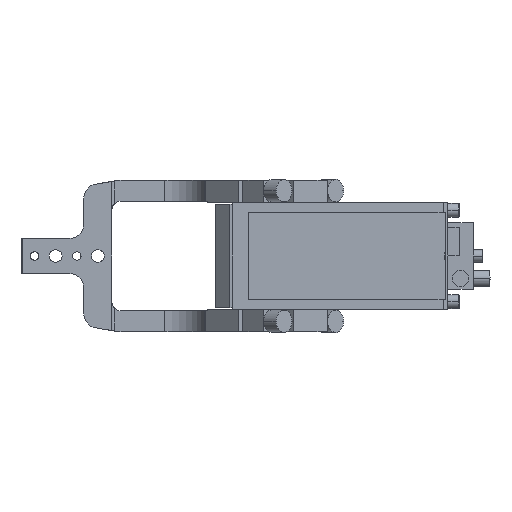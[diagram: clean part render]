
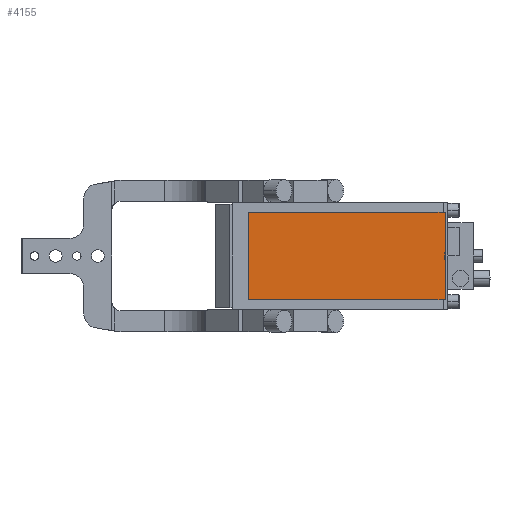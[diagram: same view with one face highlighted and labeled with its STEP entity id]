
A CAD part, left-side view. The second image highlights one B-rep face of the part: STEP entity #4155.
In plain terms, the highlighted planar face has unit normal (-1, 0, 0).
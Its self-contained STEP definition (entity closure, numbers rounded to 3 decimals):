
#321 = ORIENTED_EDGE ( 'NONE', *, *, #10502, .T. ) ;
#347 = VECTOR ( 'NONE', #10851, 1000. ) ;
#800 = LINE ( 'NONE', #10021, #9009 ) ;
#1930 = CARTESIAN_POINT ( 'NONE',  ( -402., -122., 31. ) ) ;
#1937 = CARTESIAN_POINT ( 'NONE',  ( -402., 18., 31. ) ) ;
#2073 = LINE ( 'NONE', #9421, #8960 ) ;
#2247 = EDGE_CURVE ( 'NONE', #5416, #5168, #7511, .T. ) ;
#2253 = FACE_OUTER_BOUND ( 'NONE', #2746, .T. ) ;
#2342 = VECTOR ( 'NONE', #6953, 1000. ) ;
#2639 = AXIS2_PLACEMENT_3D ( 'NONE', #10653, #6483, #7374 ) ;
#2722 = ORIENTED_EDGE ( 'NONE', *, *, #3282, .T. ) ;
#2746 = EDGE_LOOP ( 'NONE', ( #6594, #7885, #321, #2722 ) ) ;
#3282 = EDGE_CURVE ( 'NONE', #5136, #5416, #800, .T. ) ;
#3656 = LINE ( 'NONE', #7063, #2342 ) ;
#4155 = ADVANCED_FACE ( 'NONE', ( #2253 ), #8945, .T. ) ;
#5136 = VERTEX_POINT ( 'NONE', #1937 ) ;
#5168 = VERTEX_POINT ( 'NONE', #9508 ) ;
#5416 = VERTEX_POINT ( 'NONE', #5990 ) ;
#5990 = CARTESIAN_POINT ( 'NONE',  ( -402., 18., -31. ) ) ;
#6023 = EDGE_CURVE ( 'NONE', #5168, #7899, #2073, .T. ) ;
#6483 = DIRECTION ( 'NONE',  ( -1., 0., 0. ) ) ;
#6594 = ORIENTED_EDGE ( 'NONE', *, *, #2247, .T. ) ;
#6953 = DIRECTION ( 'NONE',  ( 0., 1., 0. ) ) ;
#7063 = CARTESIAN_POINT ( 'NONE',  ( -402., -52., 31. ) ) ;
#7374 = DIRECTION ( 'NONE',  ( 0., 0., 1. ) ) ;
#7511 = LINE ( 'NONE', #9042, #347 ) ;
#7885 = ORIENTED_EDGE ( 'NONE', *, *, #6023, .T. ) ;
#7899 = VERTEX_POINT ( 'NONE', #1930 ) ;
#8263 = DIRECTION ( 'NONE',  ( 0., 0., -1. ) ) ;
#8945 = PLANE ( 'NONE',  #2639 ) ;
#8960 = VECTOR ( 'NONE', #10359, 1000. ) ;
#9009 = VECTOR ( 'NONE', #8263, 1000. ) ;
#9042 = CARTESIAN_POINT ( 'NONE',  ( -402., -52., -31. ) ) ;
#9421 = CARTESIAN_POINT ( 'NONE',  ( -402., -122., 0. ) ) ;
#9508 = CARTESIAN_POINT ( 'NONE',  ( -402., -122., -31. ) ) ;
#10021 = CARTESIAN_POINT ( 'NONE',  ( -402., 18., 0. ) ) ;
#10359 = DIRECTION ( 'NONE',  ( 0., 0., 1. ) ) ;
#10502 = EDGE_CURVE ( 'NONE', #7899, #5136, #3656, .T. ) ;
#10653 = CARTESIAN_POINT ( 'NONE',  ( -402., 0., 0. ) ) ;
#10851 = DIRECTION ( 'NONE',  ( 0., -1., 0. ) ) ;
